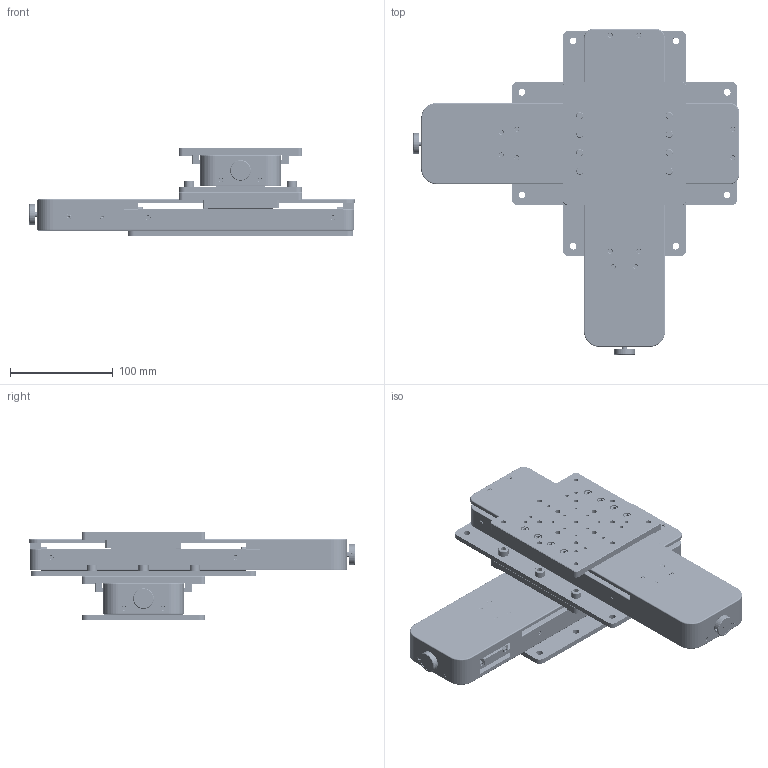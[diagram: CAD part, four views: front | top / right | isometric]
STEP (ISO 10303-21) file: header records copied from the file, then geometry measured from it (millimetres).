
FILE_DESCRIPTION((''),'2;1');
FILE_NAME('Z:\1規格品図面ﾃﾞｰﾀ\世界カタログ\OSMS\XY\HP_ﾀﾞｳﾝﾛｰﾄﾞ用\3D\OSMS26-100(XY)(M6)\OSMS26-100(XY)-M6_STP.stp','2014-03-24T14:47:06',('kawashima'),(''),'Autodesk Inventor 2008','Autodesk Inventor 2008','');
FILE_SCHEMA(('AUTOMOTIVE_DESIGN { 1 0 10303 214 1 1 1 1 }'));
Length unit declared in the file: millimetre
Products named in the file (4): OS26102M-M02-13001-TS01; OSMS2610M-M02-13001-S08; OSMS2610M-M02-13001-S03; OS26102M-M02-13001-S08
Assembly tree (4 placements, depth 2):
  OS26102M-M02-13001-TS01
    OSMS2610M-M02-13001-S08
    OSMS2610M-M02-13001-S03  x2
    OS26102M-M02-13001-S08
Bounding box: 317.5 x 317.5 x 86 mm (x, y, z)
Volume: 1103260.4 mm3; surface area: 602448.8 mm2
Topology: 4 solids, 166 shells, 4426 faces, 11102 edges, 7238 vertices
Faces by surface type: plane 2794, cylinder 672, bspline 564, cone 362, torus 32, sphere 2
Full cylindrical faces by diameter (mm): 1.567 x12, 1.6 x4, 2 x12, 2.113 x4, 2.5 x4, 2.6 x12, 3 x34, 3.5 x2, 3.8 x4, 4 x72, 4.5 x16, 5 x6, 5.5 x16, 6 x14, 7 x36, 8 x14, 10 x6, 12 x2, 15 x2, 20 x2
Entity records: 118432 total; most frequent: CARTESIAN_POINT 28389, DIRECTION 17786, ORIENTED_EDGE 17548, EDGE_CURVE 8774, VERTEX_POINT 6078, AXIS2_PLACEMENT_3D 5955, VECTOR 5876, LINE 5876
